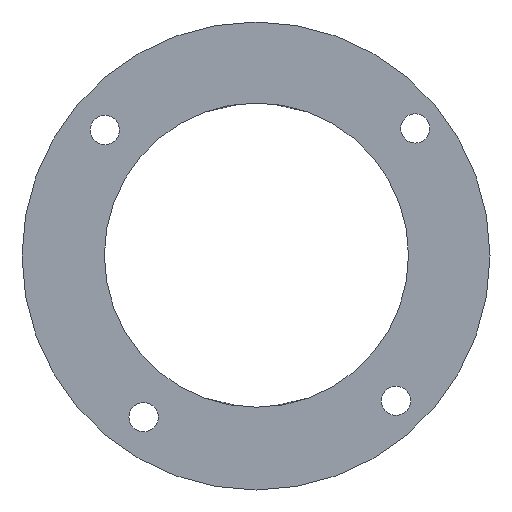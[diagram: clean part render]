
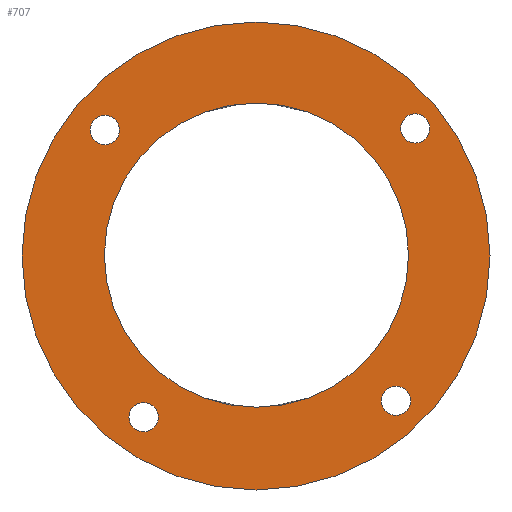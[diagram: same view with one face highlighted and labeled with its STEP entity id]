
A CAD part, left-side view. The second image highlights one B-rep face of the part: STEP entity #707.
In plain terms, the highlighted planar face has unit normal (-1, 0, 0).
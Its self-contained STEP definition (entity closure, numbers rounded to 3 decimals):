
#25 = DIRECTION ( 'NONE',  ( 1., 0., 0. ) ) ;
#27 = DIRECTION ( 'NONE',  ( 0., 0., -1. ) ) ;
#32 = CARTESIAN_POINT ( 'NONE',  ( 0., 3.309, 16.924 ) ) ;
#40 = CARTESIAN_POINT ( 'NONE',  ( 0., -9.607, 4.906 ) ) ;
#71 = FACE_BOUND ( 'NONE', #268, .T. ) ;
#78 = EDGE_CURVE ( 'NONE', #887, #805, #783, .T. ) ;
#90 = ORIENTED_EDGE ( 'NONE', *, *, #484, .T. ) ;
#92 = CIRCLE ( 'NONE', #622, 1.25 ) ;
#97 = EDGE_CURVE ( 'NONE', #851, #592, #92, .T. ) ;
#100 = ORIENTED_EDGE ( 'NONE', *, *, #440, .F. ) ;
#101 = DIRECTION ( 'NONE',  ( 0., 0., -1. ) ) ;
#102 = DIRECTION ( 'NONE',  ( 0., 0., -1. ) ) ;
#112 = DIRECTION ( 'NONE',  ( 0., 0., -1. ) ) ;
#119 = CIRCLE ( 'NONE', #696, 1.25 ) ;
#150 = EDGE_CURVE ( 'NONE', #540, #536, #649, .T. ) ;
#161 = VERTEX_POINT ( 'NONE', #1003 ) ;
#179 = ORIENTED_EDGE ( 'NONE', *, *, #150, .T. ) ;
#181 = AXIS2_PLACEMENT_3D ( 'NONE', #817, #269, #27 ) ;
#187 = CARTESIAN_POINT ( 'NONE',  ( 0., -23.216, 17.059 ) ) ;
#192 = CARTESIAN_POINT ( 'NONE',  ( 0., -21.568, -7.468 ) ) ;
#198 = VERTEX_POINT ( 'NONE', #437 ) ;
#224 = VERTEX_POINT ( 'NONE', #275 ) ;
#256 = DIRECTION ( 'NONE',  ( 1., 0., 0. ) ) ;
#262 = CIRCLE ( 'NONE', #1004, 1.25 ) ;
#266 = ORIENTED_EDGE ( 'NONE', *, *, #827, .F. ) ;
#267 = DIRECTION ( 'NONE',  ( 0., 0., -1. ) ) ;
#268 = EDGE_LOOP ( 'NONE', ( #802, #392 ) ) ;
#269 = DIRECTION ( 'NONE',  ( -1., 0., 0. ) ) ;
#272 = AXIS2_PLACEMENT_3D ( 'NONE', #585, #895, #267 ) ;
#275 = CARTESIAN_POINT ( 'NONE',  ( 0., 0., -7.617 ) ) ;
#276 = CARTESIAN_POINT ( 'NONE',  ( 0., -21.568, -8.718 ) ) ;
#291 = DIRECTION ( 'NONE',  ( 0., 0., -1. ) ) ;
#296 = EDGE_LOOP ( 'NONE', ( #932, #100 ) ) ;
#303 = CIRCLE ( 'NONE', #511, 13. ) ;
#328 = AXIS2_PLACEMENT_3D ( 'NONE', #750, #979, #356 ) ;
#331 = CARTESIAN_POINT ( 'NONE',  ( 0., -9.644, 4.979 ) ) ;
#344 = FACE_BOUND ( 'NONE', #578, .T. ) ;
#356 = DIRECTION ( 'NONE',  ( 0., 0., -1. ) ) ;
#359 = CARTESIAN_POINT ( 'NONE',  ( 0., -9.607, -15.094 ) ) ;
#378 = CARTESIAN_POINT ( 'NONE',  ( 0., -21.568, -7.468 ) ) ;
#381 = CARTESIAN_POINT ( 'NONE',  ( 0., -23.216, 14.559 ) ) ;
#388 = DIRECTION ( 'NONE',  ( 0., 0., -1. ) ) ;
#392 = ORIENTED_EDGE ( 'NONE', *, *, #97, .T. ) ;
#437 = CARTESIAN_POINT ( 'NONE',  ( 0., -9.607, 24.906 ) ) ;
#438 = DIRECTION ( 'NONE',  ( 1., 0., 0. ) ) ;
#440 = EDGE_CURVE ( 'NONE', #805, #887, #303, .T. ) ;
#442 = FACE_BOUND ( 'NONE', #296, .T. ) ;
#456 = DIRECTION ( 'NONE',  ( -1., 0., 0. ) ) ;
#462 = DIRECTION ( 'NONE',  ( 0., 0., -1. ) ) ;
#484 = EDGE_CURVE ( 'NONE', #534, #562, #1020, .T. ) ;
#496 = CARTESIAN_POINT ( 'NONE',  ( 0., 3.309, 15.674 ) ) ;
#497 = CARTESIAN_POINT ( 'NONE',  ( 0., -23.216, 15.809 ) ) ;
#507 = CIRCLE ( 'NONE', #909, 1.25 ) ;
#511 = AXIS2_PLACEMENT_3D ( 'NONE', #331, #883, #964 ) ;
#519 = EDGE_CURVE ( 'NONE', #536, #540, #262, .T. ) ;
#521 = ORIENTED_EDGE ( 'NONE', *, *, #557, .F. ) ;
#534 = VERTEX_POINT ( 'NONE', #988 ) ;
#536 = VERTEX_POINT ( 'NONE', #814 ) ;
#537 = EDGE_CURVE ( 'NONE', #580, #198, #785, .T. ) ;
#540 = VERTEX_POINT ( 'NONE', #32 ) ;
#541 = ORIENTED_EDGE ( 'NONE', *, *, #597, .F. ) ;
#557 = EDGE_CURVE ( 'NONE', #198, #580, #572, .T. ) ;
#562 = VERTEX_POINT ( 'NONE', #276 ) ;
#568 = AXIS2_PLACEMENT_3D ( 'NONE', #762, #596, #291 ) ;
#572 = CIRCLE ( 'NONE', #328, 20. ) ;
#578 = EDGE_LOOP ( 'NONE', ( #266, #541 ) ) ;
#580 = VERTEX_POINT ( 'NONE', #359 ) ;
#585 = CARTESIAN_POINT ( 'NONE',  ( 0., -9.607, 4.906 ) ) ;
#592 = VERTEX_POINT ( 'NONE', #187 ) ;
#596 = DIRECTION ( 'NONE',  ( 1., 0., 0. ) ) ;
#597 = EDGE_CURVE ( 'NONE', #161, #224, #962, .T. ) ;
#601 = DIRECTION ( 'NONE',  ( 0., 0., -1. ) ) ;
#619 = CARTESIAN_POINT ( 'NONE',  ( 0., -9.644, -8.021 ) ) ;
#622 = AXIS2_PLACEMENT_3D ( 'NONE', #497, #256, #101 ) ;
#630 = AXIS2_PLACEMENT_3D ( 'NONE', #1019, #456, #388 ) ;
#633 = EDGE_LOOP ( 'NONE', ( #940, #179 ) ) ;
#643 = AXIS2_PLACEMENT_3D ( 'NONE', #741, #763, #112 ) ;
#645 = FACE_BOUND ( 'NONE', #633, .T. ) ;
#649 = CIRCLE ( 'NONE', #568, 1.25 ) ;
#665 = DIRECTION ( 'NONE',  ( 0., 0., -1. ) ) ;
#685 = CIRCLE ( 'NONE', #630, 1.25 ) ;
#696 = AXIS2_PLACEMENT_3D ( 'NONE', #378, #438, #993 ) ;
#707 = ADVANCED_FACE ( 'NONE', ( #71, #935, #645, #344, #442, #727 ), #921, .F. ) ;
#723 = EDGE_CURVE ( 'NONE', #562, #534, #119, .T. ) ;
#727 = FACE_OUTER_BOUND ( 'NONE', #1026, .T. ) ;
#741 = CARTESIAN_POINT ( 'NONE',  ( 0., 0., -8.867 ) ) ;
#747 = DIRECTION ( 'NONE',  ( 1., 0., 0. ) ) ;
#750 = CARTESIAN_POINT ( 'NONE',  ( 0., -9.607, 4.906 ) ) ;
#762 = CARTESIAN_POINT ( 'NONE',  ( 0., 3.309, 15.674 ) ) ;
#763 = DIRECTION ( 'NONE',  ( -1., 0., 0. ) ) ;
#766 = ORIENTED_EDGE ( 'NONE', *, *, #723, .T. ) ;
#777 = EDGE_LOOP ( 'NONE', ( #90, #766 ) ) ;
#783 = CIRCLE ( 'NONE', #181, 13. ) ;
#785 = CIRCLE ( 'NONE', #272, 20. ) ;
#795 = EDGE_CURVE ( 'NONE', #592, #851, #507, .T. ) ;
#802 = ORIENTED_EDGE ( 'NONE', *, *, #795, .T. ) ;
#805 = VERTEX_POINT ( 'NONE', #619 ) ;
#814 = CARTESIAN_POINT ( 'NONE',  ( 0., 3.309, 14.424 ) ) ;
#817 = CARTESIAN_POINT ( 'NONE',  ( 0., -9.644, 4.979 ) ) ;
#820 = AXIS2_PLACEMENT_3D ( 'NONE', #40, #844, #601 ) ;
#827 = EDGE_CURVE ( 'NONE', #224, #161, #685, .T. ) ;
#840 = ORIENTED_EDGE ( 'NONE', *, *, #537, .F. ) ;
#844 = DIRECTION ( 'NONE',  ( 1., 0., 0. ) ) ;
#851 = VERTEX_POINT ( 'NONE', #381 ) ;
#877 = CARTESIAN_POINT ( 'NONE',  ( 0., -9.644, 17.979 ) ) ;
#883 = DIRECTION ( 'NONE',  ( -1., 0., 0. ) ) ;
#887 = VERTEX_POINT ( 'NONE', #877 ) ;
#895 = DIRECTION ( 'NONE',  ( 1., 0., 0. ) ) ;
#909 = AXIS2_PLACEMENT_3D ( 'NONE', #1013, #925, #462 ) ;
#921 = PLANE ( 'NONE',  #820 ) ;
#925 = DIRECTION ( 'NONE',  ( 1., 0., 0. ) ) ;
#928 = AXIS2_PLACEMENT_3D ( 'NONE', #192, #747, #665 ) ;
#932 = ORIENTED_EDGE ( 'NONE', *, *, #78, .F. ) ;
#935 = FACE_BOUND ( 'NONE', #777, .T. ) ;
#940 = ORIENTED_EDGE ( 'NONE', *, *, #519, .T. ) ;
#962 = CIRCLE ( 'NONE', #643, 1.25 ) ;
#964 = DIRECTION ( 'NONE',  ( 0., 0., -1. ) ) ;
#979 = DIRECTION ( 'NONE',  ( 1., 0., 0. ) ) ;
#988 = CARTESIAN_POINT ( 'NONE',  ( 0., -21.568, -6.218 ) ) ;
#993 = DIRECTION ( 'NONE',  ( 0., 0., -1. ) ) ;
#1003 = CARTESIAN_POINT ( 'NONE',  ( 0., 0., -10.117 ) ) ;
#1004 = AXIS2_PLACEMENT_3D ( 'NONE', #496, #25, #102 ) ;
#1013 = CARTESIAN_POINT ( 'NONE',  ( 0., -23.216, 15.809 ) ) ;
#1019 = CARTESIAN_POINT ( 'NONE',  ( 0., 0., -8.867 ) ) ;
#1020 = CIRCLE ( 'NONE', #928, 1.25 ) ;
#1026 = EDGE_LOOP ( 'NONE', ( #521, #840 ) ) ;
